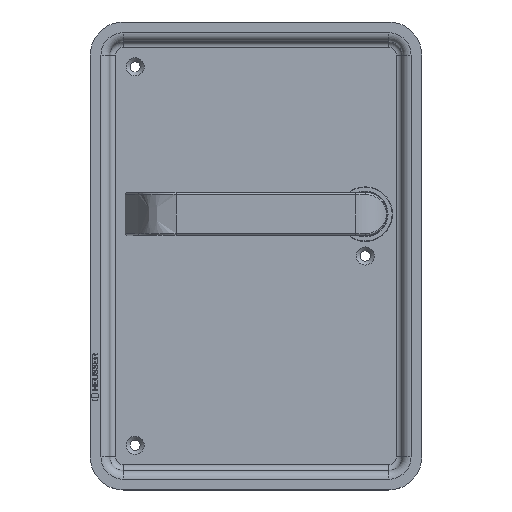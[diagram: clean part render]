
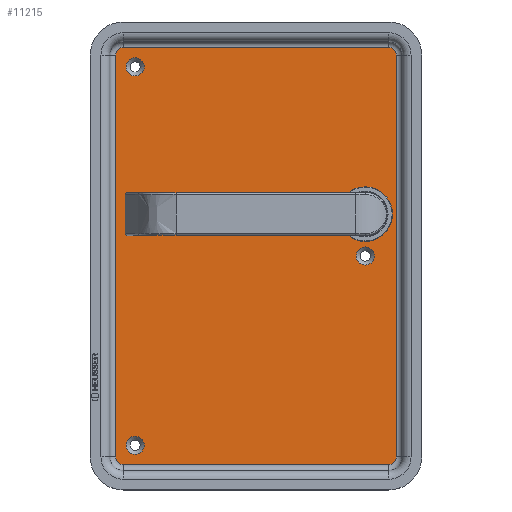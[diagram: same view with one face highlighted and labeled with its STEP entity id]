
A CAD part, top view. The second image highlights one B-rep face of the part: STEP entity #11215.
In plain terms, the highlighted planar face has unit normal (0, 0, 1).
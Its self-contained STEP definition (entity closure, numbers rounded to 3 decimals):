
#726=FACE_BOUND('',#3795,.T.);
#727=FACE_BOUND('',#3796,.T.);
#728=FACE_BOUND('',#3797,.T.);
#729=FACE_BOUND('',#3798,.T.);
#1358=LINE('',#18923,#2313);
#1359=LINE('',#18927,#2314);
#1360=LINE('',#18931,#2315);
#1361=LINE('',#18935,#2316);
#2313=VECTOR('',#13525,10.);
#2314=VECTOR('',#13528,10.);
#2315=VECTOR('',#13531,10.);
#2316=VECTOR('',#13534,10.);
#3124=FACE_OUTER_BOUND('',#3794,.T.);
#3794=EDGE_LOOP('',(#8760,#8761,#8762,#8763,#8764,#8765,#8766,#8767));
#3795=EDGE_LOOP('',(#8768));
#3796=EDGE_LOOP('',(#8769));
#3797=EDGE_LOOP('',(#8770));
#3798=EDGE_LOOP('',(#8771));
#4132=CIRCLE('',#11824,14.);
#4143=CIRCLE('',#11844,4.65);
#4144=CIRCLE('',#11846,4.);
#4145=CIRCLE('',#11847,4.);
#4146=CIRCLE('',#11848,4.);
#4147=CIRCLE('',#11849,4.);
#4148=CIRCLE('',#11850,4.65);
#4149=CIRCLE('',#11851,4.65);
#4880=VERTEX_POINT('',#18887);
#4891=VERTEX_POINT('',#18918);
#4892=VERTEX_POINT('',#18921);
#4893=VERTEX_POINT('',#18922);
#4894=VERTEX_POINT('',#18924);
#4895=VERTEX_POINT('',#18926);
#4896=VERTEX_POINT('',#18928);
#4897=VERTEX_POINT('',#18930);
#4898=VERTEX_POINT('',#18932);
#4899=VERTEX_POINT('',#18934);
#4900=VERTEX_POINT('',#18937);
#4901=VERTEX_POINT('',#18939);
#6233=EDGE_CURVE('',#4880,#4880,#4132,.T.);
#6244=EDGE_CURVE('',#4891,#4891,#4143,.T.);
#6245=EDGE_CURVE('',#4892,#4893,#1358,.T.);
#6246=EDGE_CURVE('',#4894,#4892,#4144,.T.);
#6247=EDGE_CURVE('',#4895,#4894,#1359,.T.);
#6248=EDGE_CURVE('',#4896,#4895,#4145,.T.);
#6249=EDGE_CURVE('',#4897,#4896,#1360,.T.);
#6250=EDGE_CURVE('',#4898,#4897,#4146,.T.);
#6251=EDGE_CURVE('',#4899,#4898,#1361,.T.);
#6252=EDGE_CURVE('',#4893,#4899,#4147,.T.);
#6253=EDGE_CURVE('',#4900,#4900,#4148,.T.);
#6254=EDGE_CURVE('',#4901,#4901,#4149,.T.);
#8760=ORIENTED_EDGE('',*,*,#6245,.F.);
#8761=ORIENTED_EDGE('',*,*,#6246,.F.);
#8762=ORIENTED_EDGE('',*,*,#6247,.F.);
#8763=ORIENTED_EDGE('',*,*,#6248,.F.);
#8764=ORIENTED_EDGE('',*,*,#6249,.F.);
#8765=ORIENTED_EDGE('',*,*,#6250,.F.);
#8766=ORIENTED_EDGE('',*,*,#6251,.F.);
#8767=ORIENTED_EDGE('',*,*,#6252,.F.);
#8768=ORIENTED_EDGE('',*,*,#6233,.T.);
#8769=ORIENTED_EDGE('',*,*,#6253,.F.);
#8770=ORIENTED_EDGE('',*,*,#6254,.F.);
#8771=ORIENTED_EDGE('',*,*,#6244,.F.);
#10115=PLANE('',#11845);
#11215=ADVANCED_FACE('',(#3124,#726,#727,#728,#729),#10115,.T.);
#11824=AXIS2_PLACEMENT_3D('',#18888,#13481,#13482);
#11844=AXIS2_PLACEMENT_3D('',#18919,#13521,#13522);
#11845=AXIS2_PLACEMENT_3D('',#18920,#13523,#13524);
#11846=AXIS2_PLACEMENT_3D('',#18925,#13526,#13527);
#11847=AXIS2_PLACEMENT_3D('',#18929,#13529,#13530);
#11848=AXIS2_PLACEMENT_3D('',#18933,#13532,#13533);
#11849=AXIS2_PLACEMENT_3D('',#18936,#13535,#13536);
#11850=AXIS2_PLACEMENT_3D('',#18938,#13537,#13538);
#11851=AXIS2_PLACEMENT_3D('',#18940,#13539,#13540);
#13481=DIRECTION('center_axis',(0.,0.,-1.));
#13482=DIRECTION('ref_axis',(1.,0.,0.));
#13521=DIRECTION('center_axis',(0.,0.,1.));
#13522=DIRECTION('ref_axis',(-1.,0.,0.));
#13523=DIRECTION('center_axis',(0.,0.,1.));
#13524=DIRECTION('ref_axis',(1.,0.,0.));
#13525=DIRECTION('',(0.,1.,0.));
#13526=DIRECTION('center_axis',(0.,0.,-1.));
#13527=DIRECTION('ref_axis',(-0.707,-0.707,0.));
#13528=DIRECTION('',(-1.,0.,0.));
#13529=DIRECTION('center_axis',(0.,0.,-1.));
#13530=DIRECTION('ref_axis',(0.707,-0.707,0.));
#13531=DIRECTION('',(0.,-1.,0.));
#13532=DIRECTION('center_axis',(0.,0.,-1.));
#13533=DIRECTION('ref_axis',(0.707,0.707,0.));
#13534=DIRECTION('',(1.,0.,0.));
#13535=DIRECTION('center_axis',(0.,0.,-1.));
#13536=DIRECTION('ref_axis',(-0.707,0.707,0.));
#13537=DIRECTION('center_axis',(0.,0.,1.));
#13538=DIRECTION('ref_axis',(-1.,0.,0.));
#13539=DIRECTION('center_axis',(0.,0.,1.));
#13540=DIRECTION('ref_axis',(-1.,0.,0.));
#18887=CARTESIAN_POINT('',(15.204,26.549,-9.));
#18888=CARTESIAN_POINT('Origin',(29.204,26.549,-9.));
#18918=CARTESIAN_POINT('',(33.854,5.049,-9.));
#18919=CARTESIAN_POINT('Origin',(29.204,5.049,-9.));
#18920=CARTESIAN_POINT('Origin',(-26.796,5.049,-9.));
#18921=CARTESIAN_POINT('',(-98.796,-97.951,-9.));
#18922=CARTESIAN_POINT('',(-98.796,108.049,-9.));
#18923=CARTESIAN_POINT('',(-98.796,-46.451,-9.));
#18924=CARTESIAN_POINT('',(-94.796,-101.951,-9.));
#18925=CARTESIAN_POINT('Origin',(-94.796,-97.951,-9.));
#18926=CARTESIAN_POINT('',(41.204,-101.951,-9.));
#18927=CARTESIAN_POINT('',(7.204,-101.951,-9.));
#18928=CARTESIAN_POINT('',(45.204,-97.951,-9.));
#18929=CARTESIAN_POINT('Origin',(41.204,-97.951,-9.));
#18930=CARTESIAN_POINT('',(45.204,108.049,-9.));
#18931=CARTESIAN_POINT('',(45.204,56.549,-9.));
#18932=CARTESIAN_POINT('',(41.204,112.049,-9.));
#18933=CARTESIAN_POINT('Origin',(41.204,108.049,-9.));
#18934=CARTESIAN_POINT('',(-94.796,112.049,-9.));
#18935=CARTESIAN_POINT('',(-60.796,112.049,-9.));
#18936=CARTESIAN_POINT('Origin',(-94.796,108.049,-9.));
#18937=CARTESIAN_POINT('',(-84.146,102.049,-9.));
#18938=CARTESIAN_POINT('Origin',(-88.796,102.049,-9.));
#18939=CARTESIAN_POINT('',(-84.146,-91.951,-9.));
#18940=CARTESIAN_POINT('Origin',(-88.796,-91.951,-9.));
